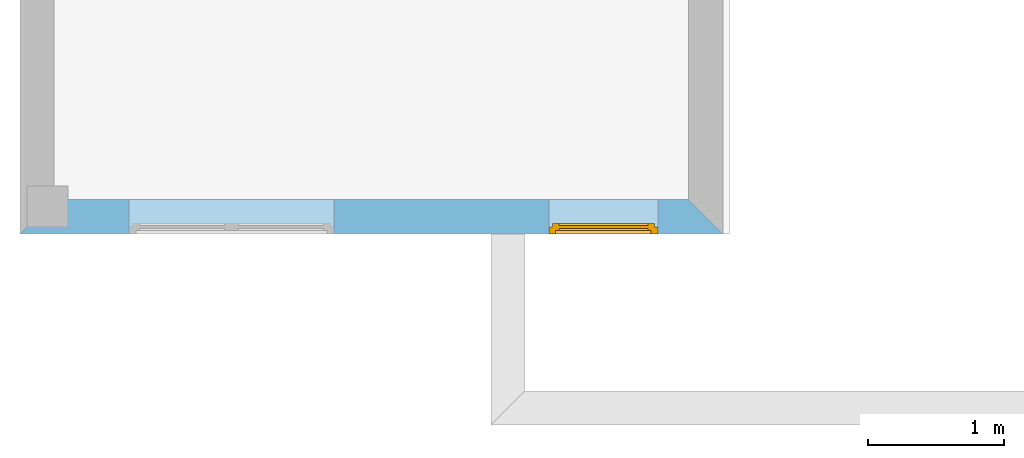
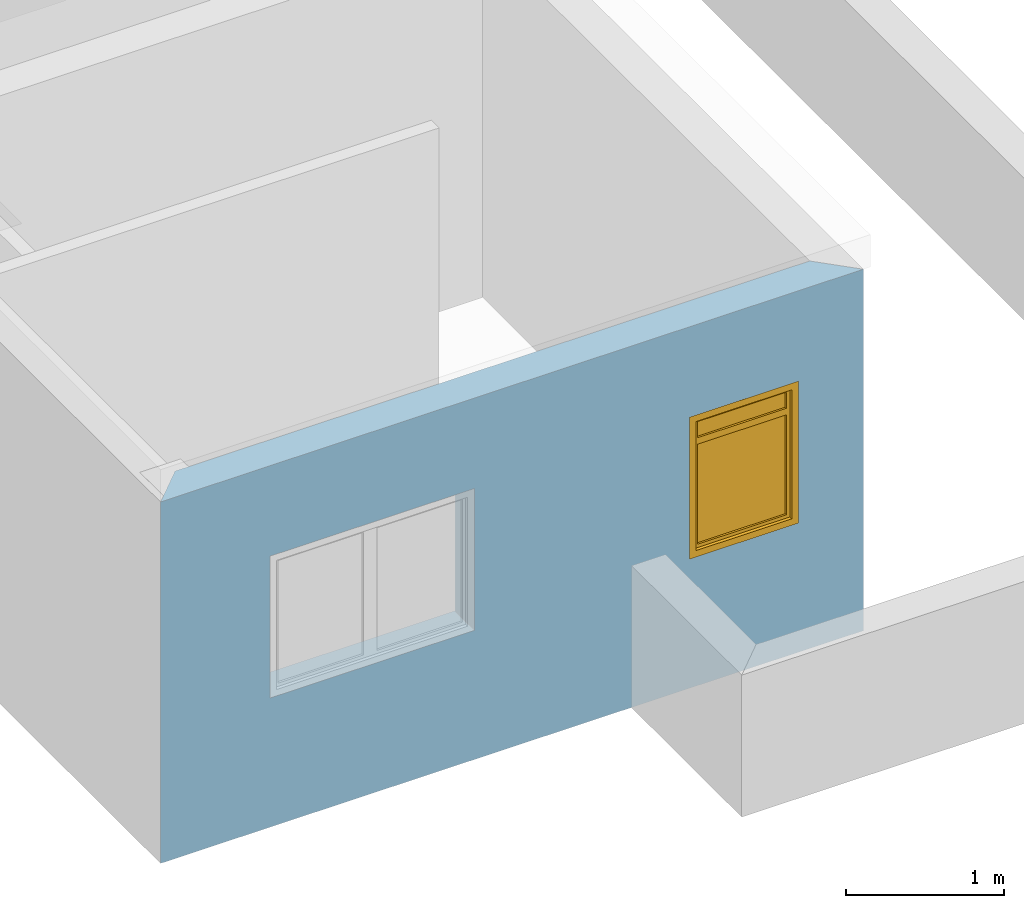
# One storey, part 2 of 2: 1 window, 2 openings, plus 1 element that does not belong to this part.
"""IFC2X3 building model written with IfcOpenShell, lengths in millimetres."""

from ifc_helpers import new_model, entity, si_unit, converted_unit, direction, frame, frame_2d, origin_with_axes, place, context, project, spatial, polyline, rectangle, outline, extrude, faceted_brep, material, layer, layer_set, layer_usage, type_object, element, fill, save


model = new_model("IFC2X3")

# Units and contexts
context_of_model = context(None, 3, precision=1e-05, world=origin_with_axes(), true_north=direction((6.123234e-17, 1.0)))
plan_context = context("Plan", 3, precision=1e-05, world=origin_with_axes(), true_north=direction((6.123234e-17, 1.0)))
model_context = context("Model", 3, precision=1e-05, world=origin_with_axes(), true_north=direction((6.123234e-17, 1.0)))
ifc_project = project(units=[si_unit("LENGTHUNIT", "METRE", prefix="MILLI"), si_unit("AREAUNIT", "SQUARE_METRE"), si_unit("VOLUMEUNIT", "CUBIC_METRE"), converted_unit("PLANEANGLEUNIT", "DEGREE", entity("IfcPlaneAngleMeasure", 0.017453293), si_unit("PLANEANGLEUNIT", "RADIAN"), dimensions=[0, 0, 0, 0, 0, 0, 0]), si_unit("SOLIDANGLEUNIT", "STERADIAN"), si_unit("MASSUNIT", "GRAM"), si_unit("TIMEUNIT", "SECOND"), si_unit("THERMODYNAMICTEMPERATUREUNIT", "DEGREE_CELSIUS"), si_unit("LUMINOUSINTENSITYUNIT", "LUMEN")], contexts=[context_of_model, plan_context, model_context])

# Site, building, storey
site_placement = place(None, origin_with_axes())
site = spatial("IfcSite", under=ifc_project, at=site_placement, Name="Por defecto Sitio", CompositionType="ELEMENT")
building_placement = place(site_placement, origin_with_axes())
building = spatial("IfcBuilding", under=site, at=building_placement, Name="Por defecto Edificio", CompositionType="ELEMENT")
storey_placement = place(building_placement, frame((0.0, 0.0, 6300.0), z_axis=(0.0, 0.0, 1.0), x_axis=(1.0, 0.0, 0.0)))
storey = spatial("IfcBuildingStorey", under=building, at=storey_placement, Name="Azotea", CompositionType="ELEMENT", Elevation=6300.0)

# Wall, openings, window
ifc_material = material(Name="Bloque mampostería")
ifc_layer = layer(ifc_material, 250.0, ventilated="UNKNOWN")
ifc_layer_set = layer_set([ifc_layer], Name="Bloque mampostería 250")
ifc_layer_usage = layer_usage(ifc_layer_set, "AXIS2", "NEGATIVE", 0.0)
wall_type = type_object("IfcWallType", Name="Bloque mampostería 250", PredefinedType="NOTDEFINED", material=ifc_layer_set)
wall_placement = place(storey_placement, frame((4950.0, 4750.0, 0.0), z_axis=(0.0, 0.0, 1.0), x_axis=(-1.0, 0.0, 0.0)))
wall = element("IfcWallStandardCase", 1, at=wall_placement, inside=storey, type_object=wall_type, material=ifc_layer_usage, Name="Muro-014", context=model_context, shape_type="SweptSolid", body=[
    extrude(outline(polyline([(250.0, -250.0), (4900.0, -250.0), (5150.0, 0.0), (0.0, 0.0), (250.0, -250.0)])), origin_with_axes(), (0.0, 0.0, 1.0), 2800.0),
])
opening_1_placement = place(wall_placement, frame((875.0, -250.0, 1000.0), z_axis=(0.0, 0.0, 1.0), x_axis=(1.0, 0.0, 0.0)))
opening_1 = element("IfcOpeningElement", 2, at=opening_1_placement, cuts=wall, ObjectType="Opening", context=model_context, shape_type="SweptSolid", body=[
    extrude(rectangle(XDim=800.0, YDim=1100.0, at=frame_2d((2.220446e-13, 550.0), x_axis=(1.0, 0.0))), frame((0.0, 0.0, 0.0), z_axis=(0.0, 1.0, 0.0), x_axis=(-1.0, 0.0, 0.0)), (0.0, 0.0, 1.0), 250.0),
])
opening_2_placement = place(wall_placement, frame((3600.0, -250.0, 1000.0), z_axis=(0.0, 0.0, 1.0), x_axis=(1.0, 0.0, 0.0)))
element("IfcOpeningElement", 3, at=opening_2_placement, cuts=wall, ObjectType="Opening", context=model_context, shape_type="SweptSolid", body=[
    extrude(rectangle(XDim=1500.0, YDim=1100.0, at=frame_2d((0.0, 550.0), x_axis=(-1.0, 0.0))), frame((0.0, 0.0, 0.0), z_axis=(0.0, 1.0, 0.0), x_axis=(-1.0, 0.0, 0.0)), (0.0, 0.0, 1.0), 250.0),
])
window_style = type_object("IfcWindowStyle", Name="V1 Practicable DivH 13", ConstructionType="NOTDEFINED", OperationType="SINGLE_PANEL", ParameterTakesPrecedence=False, Sizeable=False)
window_placement = place(opening_1_placement, frame((400.0, 250.0, 0.0), z_axis=(0.0, 0.0, 1.0), x_axis=(-1.0, 0.0, 0.0)))
window = element("IfcWindow", 4, at=window_placement, inside=storey, type_object=window_style, Name="V07", OverallHeight=1100.0, OverallWidth=800.0, context=model_context, shape_type="Brep", body=[
    faceted_brep([(775.0, 50.0, 1050.0), (775.0, 25.0, 1050.0), (750.0, 25.0, 1050.0), (750.0, 0.0, 1050.0), (800.0, 0.0, 1050.0), (800.0, 50.0, 1050.0), (775.0, 50.0, 50.0), (775.0, 25.0, 50.0), (750.0, 25.0, 50.0), (750.0, 0.0, 50.0), (800.0, 0.0, 50.0), (800.0, 50.0, 50.0)], [[[0, 1, 2, 3, 4, 5]], [[1, 0, 6, 7]], [[8, 2, 1, 7]], [[2, 8, 9, 3]], [[3, 9, 10, 4]], [[5, 4, 10, 11]], [[6, 0, 5, 11]], [[7, 6, 11, 10, 9, 8]]]),
    faceted_brep([(50.0, 25.0, 1050.0), (25.0, 25.0, 1050.0), (25.0, 50.0, 1050.0), (0.0, 50.0, 1050.0), (0.0, 0.0, 1050.0), (50.0, 0.0, 1050.0), (50.0, 25.0, 50.0), (25.0, 25.0, 50.0), (25.0, 50.0, 50.0), (0.0, 50.0, 50.0), (0.0, 0.0, 50.0), (50.0, 0.0, 50.0)], [[[0, 1, 2, 3, 4, 5]], [[1, 0, 6, 7]], [[8, 2, 1, 7]], [[2, 8, 9, 3]], [[9, 10, 4, 3]], [[4, 10, 11, 5]], [[6, 0, 5, 11]], [[7, 6, 11, 10, 9, 8]]]),
    faceted_brep([(50.0, 25.0, 50.0), (25.0, 25.0, 50.0), (25.0, 50.0, 50.0), (0.0, 50.0, 50.0), (0.0, 0.0, 50.0), (50.0, 0.0, 50.0), (750.0, 25.0, 50.0), (775.0, 25.0, 50.0), (775.0, 25.0, 25.0), (25.0, 25.0, 25.0), (25.0, 50.0, 25.0), (775.0, 50.0, 25.0), (775.0, 50.0, 50.0), (800.0, 50.0, 50.0), (800.0, 50.0, 0.0), (0.0, 50.0, 0.0), (0.0, 0.0, 0.0), (800.0, 0.0, 0.0), (800.0, 0.0, 50.0), (750.0, 0.0, 50.0)], [[[0, 1, 2, 3, 4, 5]], [[1, 0, 6, 7, 8, 9]], [[10, 2, 1, 9]], [[11, 12, 13, 14, 15, 3, 2, 10]], [[15, 16, 4, 3]], [[16, 17, 18, 19, 5, 4]], [[6, 0, 5, 19]], [[7, 6, 19, 18, 13, 12]], [[7, 12, 11, 8]], [[11, 10, 9, 8]], [[13, 18, 17, 14]], [[14, 17, 16, 15]]]),
    faceted_brep([(775.0, 50.0, 1050.0), (775.0, 50.0, 1075.0), (25.0, 50.0, 1075.0), (25.0, 50.0, 1050.0), (0.0, 50.0, 1050.0), (0.0, 50.0, 1100.0), (800.0, 50.0, 1100.0), (800.0, 50.0, 1050.0), (775.0, 25.0, 1050.0), (775.0, 25.0, 1075.0), (25.0, 25.0, 1075.0), (25.0, 25.0, 1050.0), (50.0, 25.0, 1050.0), (50.0, 0.0, 1050.0), (0.0, 0.0, 1050.0), (0.0, 0.0, 1100.0), (800.0, 0.0, 1100.0), (800.0, 0.0, 1050.0), (750.0, 0.0, 1050.0), (750.0, 25.0, 1050.0)], [[[0, 1, 2, 3, 4, 5, 6, 7]], [[1, 0, 8, 9]], [[2, 1, 9, 10]], [[3, 2, 10, 11]], [[11, 12, 13, 14, 4, 3]], [[4, 14, 15, 5]], [[5, 15, 16, 6]], [[6, 16, 17, 7]], [[8, 0, 7, 17, 18, 19]], [[12, 11, 10, 9, 8, 19]], [[12, 19, 18, 13]], [[18, 17, 16, 15, 14, 13]]]),
    faceted_brep([(725.0, 40.0, 75.0), (75.0, 40.0, 75.0), (75.0, 60.0, 75.0), (725.0, 60.0, 75.0), (725.0, 40.0, 850.0), (75.0, 40.0, 850.0), (75.0, 60.0, 850.0), (725.0, 60.0, 850.0)], [[[0, 1, 2, 3]], [[0, 4, 5, 1]], [[1, 5, 6, 2]], [[3, 2, 6, 7]], [[4, 0, 3, 7]], [[5, 4, 7, 6]]]),
    faceted_brep([(725.0, 40.0, 900.0), (75.0, 40.0, 900.0), (75.0, 60.0, 900.0), (725.0, 60.0, 900.0), (725.0, 40.0, 1025.0), (75.0, 40.0, 1025.0), (75.0, 60.0, 1025.0), (725.0, 60.0, 1025.0)], [[[0, 1, 2, 3]], [[0, 4, 5, 1]], [[1, 5, 6, 2]], [[3, 2, 6, 7]], [[4, 0, 3, 7]], [[5, 4, 7, 6]]]),
    faceted_brep([(725.0, 25.0, 75.0), (725.0, 25.0, 850.0), (725.0, 75.0, 850.0), (725.0, 75.0, 75.0), (775.0, 25.0, 75.0), (775.0, 25.0, 1025.0), (725.0, 25.0, 1025.0), (725.0, 25.0, 900.0), (725.0, 75.0, 900.0), (725.0, 75.0, 1025.0), (775.0, 75.0, 1025.0), (775.0, 75.0, 75.0)], [[[0, 1, 2, 3]], [[0, 4, 5, 6, 7, 1]], [[1, 7, 8, 2]], [[3, 2, 8, 9, 10, 11]], [[4, 0, 3, 11]], [[5, 4, 11, 10]], [[6, 5, 10, 9]], [[7, 6, 9, 8]]]),
    faceted_brep([(25.0, 25.0, 75.0), (25.0, 25.0, 1025.0), (25.0, 75.0, 1025.0), (25.0, 75.0, 75.0), (75.0, 25.0, 75.0), (75.0, 25.0, 850.0), (75.0, 25.0, 900.0), (75.0, 25.0, 1025.0), (75.0, 75.0, 1025.0), (75.0, 75.0, 900.0), (75.0, 75.0, 850.0), (75.0, 75.0, 75.0)], [[[0, 1, 2, 3]], [[0, 4, 5, 6, 7, 1]], [[1, 7, 8, 2]], [[3, 2, 8, 9, 10, 11]], [[4, 0, 3, 11]], [[5, 4, 11, 10]], [[6, 5, 10, 9]], [[7, 6, 9, 8]]]),
    faceted_brep([(725.0, 25.0, 900.0), (725.0, 25.0, 850.0), (725.0, 75.0, 850.0), (725.0, 75.0, 900.0), (75.0, 25.0, 900.0), (75.0, 25.0, 850.0), (75.0, 75.0, 850.0), (75.0, 75.0, 900.0)], [[[0, 1, 2, 3]], [[0, 4, 5, 1]], [[1, 5, 6, 2]], [[3, 2, 6, 7]], [[4, 0, 3, 7]], [[5, 4, 7, 6]]]),
    faceted_brep([(775.0, 25.0, 25.0), (25.0, 25.0, 25.0), (25.0, 75.0, 25.0), (775.0, 75.0, 25.0), (775.0, 25.0, 75.0), (725.0, 25.0, 75.0), (75.0, 25.0, 75.0), (25.0, 25.0, 75.0), (25.0, 75.0, 75.0), (75.0, 75.0, 75.0), (725.0, 75.0, 75.0), (775.0, 75.0, 75.0)], [[[0, 1, 2, 3]], [[0, 4, 5, 6, 7, 1]], [[1, 7, 8, 2]], [[3, 2, 8, 9, 10, 11]], [[4, 0, 3, 11]], [[5, 4, 11, 10]], [[6, 5, 10, 9]], [[7, 6, 9, 8]]]),
    faceted_brep([(775.0, 25.0, 1025.0), (725.0, 25.0, 1025.0), (725.0, 75.0, 1025.0), (775.0, 75.0, 1025.0), (775.0, 25.0, 1075.0), (25.0, 25.0, 1075.0), (25.0, 25.0, 1025.0), (75.0, 25.0, 1025.0), (75.0, 75.0, 1025.0), (25.0, 75.0, 1025.0), (25.0, 75.0, 1075.0), (775.0, 75.0, 1075.0)], [[[0, 1, 2, 3]], [[0, 4, 5, 6, 7, 1]], [[1, 7, 8, 2]], [[3, 2, 8, 9, 10, 11]], [[4, 0, 3, 11]], [[5, 4, 11, 10]], [[6, 5, 10, 9]], [[7, 6, 9, 8]]]),
])
fill(opening_1, window)

save(model, "model.ifc")
